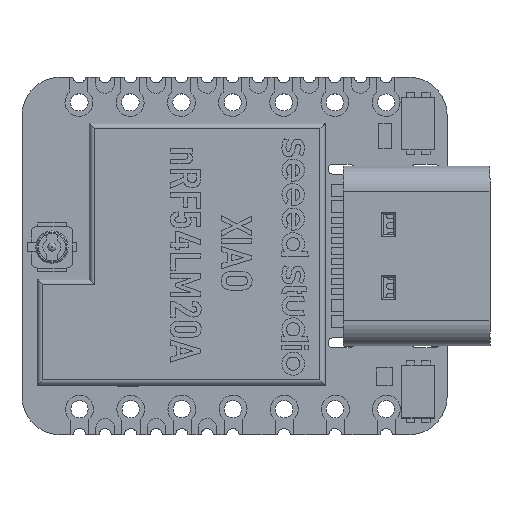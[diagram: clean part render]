
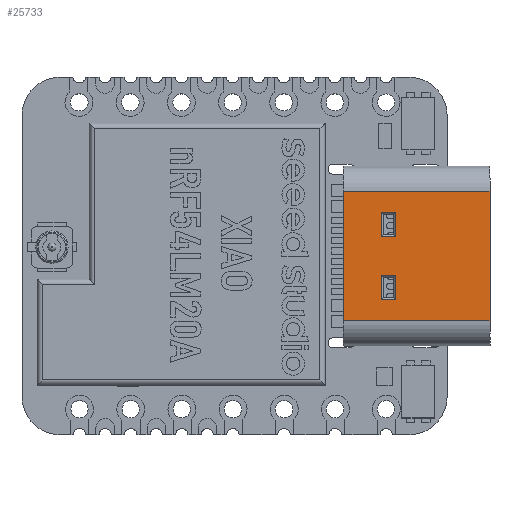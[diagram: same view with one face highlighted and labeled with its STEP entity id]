
A CAD part, top view. The second image highlights one B-rep face of the part: STEP entity #25733.
In plain terms, the highlighted planar face has unit normal (0, 0, 1) as drawn and (0, 0, -1) by its records, which use the part's own axes.
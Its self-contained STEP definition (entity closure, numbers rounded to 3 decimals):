
#885=FACE_BOUND('',#3780,.T.);
#886=FACE_BOUND('',#3781,.T.);
#2283=FACE_OUTER_BOUND('',#3779,.T.);
#3779=EDGE_LOOP('',(#17784,#17785,#17786,#17787));
#3780=EDGE_LOOP('',(#17788,#17789,#17790,#17791));
#3781=EDGE_LOOP('',(#17792,#17793,#17794,#17795));
#5486=LINE('',#36826,#8162);
#5583=LINE('',#37074,#8259);
#5608=LINE('',#37131,#8284);
#5611=LINE('',#37136,#8287);
#5612=LINE('',#37138,#8288);
#5613=LINE('',#37139,#8289);
#5614=LINE('',#37141,#8290);
#5615=LINE('',#37142,#8291);
#5616=LINE('',#37145,#8292);
#5617=LINE('',#37147,#8293);
#5618=LINE('',#37149,#8294);
#5619=LINE('',#37150,#8295);
#8162=VECTOR('',#30145,6.44);
#8259=VECTOR('',#30372,6.44);
#8284=VECTOR('',#30427,0.7);
#8287=VECTOR('',#30432,1.2);
#8288=VECTOR('',#30435,7.3);
#8289=VECTOR('',#30436,7.3);
#8290=VECTOR('',#30437,0.7);
#8291=VECTOR('',#30438,1.2);
#8292=VECTOR('',#30439,1.2);
#8293=VECTOR('',#30440,0.7);
#8294=VECTOR('',#30441,1.2);
#8295=VECTOR('',#30442,0.7);
#10780=VERTEX_POINT('',#36823);
#10781=VERTEX_POINT('',#36825);
#10866=VERTEX_POINT('',#37071);
#10867=VERTEX_POINT('',#37073);
#10883=VERTEX_POINT('',#37128);
#10884=VERTEX_POINT('',#37130);
#10885=VERTEX_POINT('',#37134);
#10886=VERTEX_POINT('',#37140);
#10887=VERTEX_POINT('',#37143);
#10888=VERTEX_POINT('',#37144);
#10889=VERTEX_POINT('',#37146);
#10890=VERTEX_POINT('',#37148);
#13384=EDGE_CURVE('',#10781,#10780,#5486,.T.);
#13512=EDGE_CURVE('',#10866,#10867,#5583,.T.);
#13541=EDGE_CURVE('',#10883,#10884,#5608,.T.);
#13544=EDGE_CURVE('',#10885,#10883,#5611,.T.);
#13545=EDGE_CURVE('',#10781,#10866,#5612,.T.);
#13546=EDGE_CURVE('',#10867,#10780,#5613,.T.);
#13547=EDGE_CURVE('',#10886,#10885,#5614,.T.);
#13548=EDGE_CURVE('',#10884,#10886,#5615,.T.);
#13549=EDGE_CURVE('',#10887,#10888,#5616,.T.);
#13550=EDGE_CURVE('',#10889,#10887,#5617,.T.);
#13551=EDGE_CURVE('',#10890,#10889,#5618,.T.);
#13552=EDGE_CURVE('',#10888,#10890,#5619,.T.);
#17784=ORIENTED_EDGE('',*,*,#13512,.F.);
#17785=ORIENTED_EDGE('',*,*,#13545,.F.);
#17786=ORIENTED_EDGE('',*,*,#13384,.T.);
#17787=ORIENTED_EDGE('',*,*,#13546,.F.);
#17788=ORIENTED_EDGE('',*,*,#13544,.F.);
#17789=ORIENTED_EDGE('',*,*,#13547,.F.);
#17790=ORIENTED_EDGE('',*,*,#13548,.F.);
#17791=ORIENTED_EDGE('',*,*,#13541,.F.);
#17792=ORIENTED_EDGE('',*,*,#13549,.F.);
#17793=ORIENTED_EDGE('',*,*,#13550,.F.);
#17794=ORIENTED_EDGE('',*,*,#13551,.F.);
#17795=ORIENTED_EDGE('',*,*,#13552,.F.);
#24533=PLANE('',#27706);
#25733=ADVANCED_FACE('',(#2283,#885,#886),#24533,.F.);
#27706=AXIS2_PLACEMENT_3D('',#37137,#30433,#30434);
#30145=DIRECTION('',(1.,0.,0.));
#30372=DIRECTION('',(1.,0.,0.));
#30427=DIRECTION('',(0.,1.,0.));
#30432=DIRECTION('',(-1.,0.,0.));
#30433=DIRECTION('center_axis',(0.,0.,1.));
#30434=DIRECTION('ref_axis',(1.,0.,0.));
#30435=DIRECTION('',(0.,-1.,0.));
#30436=DIRECTION('',(0.,1.,0.));
#30437=DIRECTION('',(0.,-1.,0.));
#30438=DIRECTION('',(1.,0.,0.));
#30439=DIRECTION('',(-1.,0.,0.));
#30440=DIRECTION('',(0.,-1.,0.));
#30441=DIRECTION('',(1.,0.,0.));
#30442=DIRECTION('',(0.,1.,0.));
#36823=CARTESIAN_POINT('',(3.22,7.3,-1.605));
#36825=CARTESIAN_POINT('',(-3.22,7.3,-1.605));
#36826=CARTESIAN_POINT('',(-3.22,7.3,-1.605));
#37071=CARTESIAN_POINT('',(-3.22,0.,-1.605));
#37073=CARTESIAN_POINT('',(3.22,0.,-1.605));
#37074=CARTESIAN_POINT('',(-3.22,0.,-1.605));
#37128=CARTESIAN_POINT('',(-2.15,1.9,-1.605));
#37130=CARTESIAN_POINT('',(-2.15,2.6,-1.605));
#37131=CARTESIAN_POINT('',(-2.15,1.9,-1.605));
#37134=CARTESIAN_POINT('',(-0.95,1.9,-1.605));
#37136=CARTESIAN_POINT('',(-0.95,1.9,-1.605));
#37137=CARTESIAN_POINT('Origin',(-4.47,7.3,-1.605));
#37138=CARTESIAN_POINT('',(-3.22,7.3,-1.605));
#37139=CARTESIAN_POINT('',(3.22,0.,-1.605));
#37140=CARTESIAN_POINT('',(-0.95,2.6,-1.605));
#37141=CARTESIAN_POINT('',(-0.95,2.6,-1.605));
#37142=CARTESIAN_POINT('',(-2.15,2.6,-1.605));
#37143=CARTESIAN_POINT('',(2.15,1.9,-1.605));
#37144=CARTESIAN_POINT('',(0.95,1.9,-1.605));
#37145=CARTESIAN_POINT('',(2.15,1.9,-1.605));
#37146=CARTESIAN_POINT('',(2.15,2.6,-1.605));
#37147=CARTESIAN_POINT('',(2.15,2.6,-1.605));
#37148=CARTESIAN_POINT('',(0.95,2.6,-1.605));
#37149=CARTESIAN_POINT('',(0.95,2.6,-1.605));
#37150=CARTESIAN_POINT('',(0.95,1.9,-1.605));
